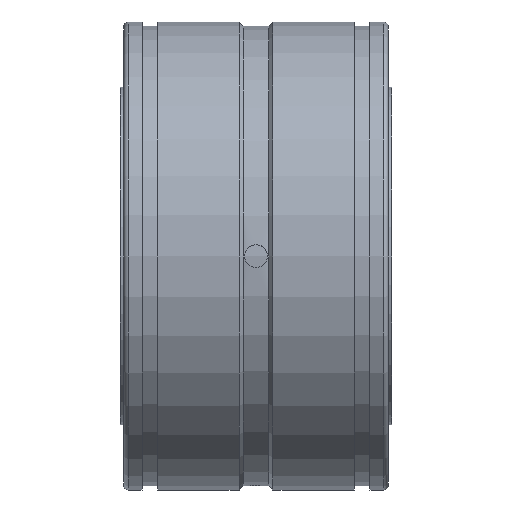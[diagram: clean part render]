
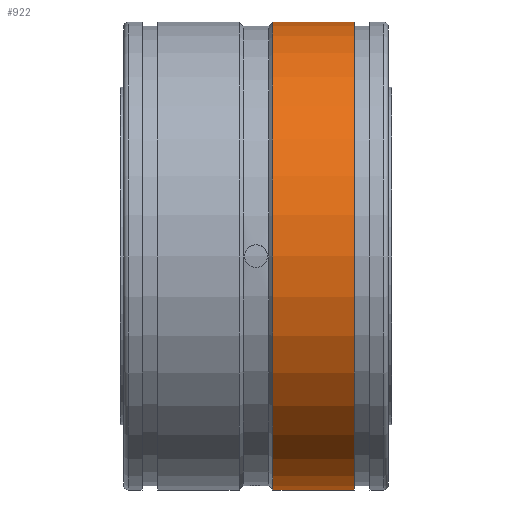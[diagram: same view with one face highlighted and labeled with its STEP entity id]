
A CAD part, front view. The second image highlights one B-rep face of the part: STEP entity #922.
In plain terms, the highlighted cylindrical face has radius 31 mm (diameter 62 mm), a full revolution.
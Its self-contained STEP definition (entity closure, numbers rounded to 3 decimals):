
#167=CYLINDRICAL_SURFACE('',#1051,31.);
#224=FACE_BOUND('',#421,.T.);
#299=FACE_OUTER_BOUND('',#420,.T.);
#420=EDGE_LOOP('',(#784));
#421=EDGE_LOOP('',(#785));
#518=CIRCLE('',#1050,31.);
#519=CIRCLE('',#1052,31.);
#592=VERTEX_POINT('',#1819);
#593=VERTEX_POINT('',#1822);
#666=EDGE_CURVE('',#592,#592,#518,.T.);
#667=EDGE_CURVE('',#593,#593,#519,.T.);
#784=ORIENTED_EDGE('',*,*,#667,.T.);
#785=ORIENTED_EDGE('',*,*,#666,.T.);
#922=ADVANCED_FACE('',(#299,#224),#167,.T.);
#1050=AXIS2_PLACEMENT_3D('',#1820,#1318,#1319);
#1051=AXIS2_PLACEMENT_3D('',#1821,#1320,#1321);
#1052=AXIS2_PLACEMENT_3D('',#1823,#1322,#1323);
#1318=DIRECTION('center_axis',(-1.,0.,0.));
#1319=DIRECTION('ref_axis',(0.,1.,0.));
#1320=DIRECTION('center_axis',(1.,0.,0.));
#1321=DIRECTION('ref_axis',(0.,1.,0.));
#1322=DIRECTION('center_axis',(1.,0.,0.));
#1323=DIRECTION('ref_axis',(0.,0.,-1.));
#1819=CARTESIAN_POINT('',(13.,31.,0.));
#1820=CARTESIAN_POINT('Origin',(13.,0.,0.));
#1821=CARTESIAN_POINT('Origin',(14.95,0.,0.));
#1822=CARTESIAN_POINT('',(2.25,31.,0.));
#1823=CARTESIAN_POINT('Origin',(2.25,0.,0.));
